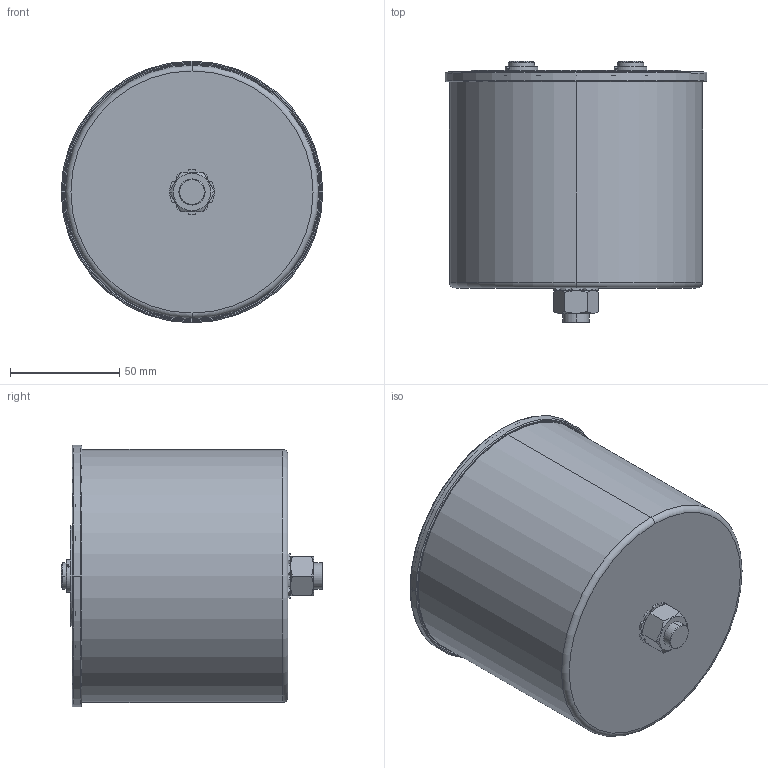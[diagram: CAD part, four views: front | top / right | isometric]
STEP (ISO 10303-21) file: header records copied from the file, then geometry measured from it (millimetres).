
FILE_DESCRIPTION (( 'STEP AP203' ), '1' );
FILE_NAME ('B25680Bx_116x99_104.STEP', '2021-09-13T06:07:22', ( '' ), ( '' ), 'SwSTEP 2.0', 'SolidWorks 2017', '' );
FILE_SCHEMA (( 'CONFIG_CONTROL_DESIGN' ));
Length unit declared in the file: millimetre
Products named in the file (1): B25680Bx_116x99_104
Bounding box: 120 x 120 x 120 mm (x, y, z)
Volume: 108756.8 mm3; surface area: 143160 mm2
Topology: 1 solids, 7 shells, 385 faces, 908 edges, 572 vertices
Faces by surface type: plane 153, cylinder 142, torus 42, cone 36, bspline 12
Entity records: 12405 total; most frequent: CARTESIAN_POINT 3162, DIRECTION 2092, ORIENTED_EDGE 1808, EDGE_CURVE 904, AXIS2_PLACEMENT_3D 850, VERTEX_POINT 572, CIRCLE 476, EDGE_LOOP 436
